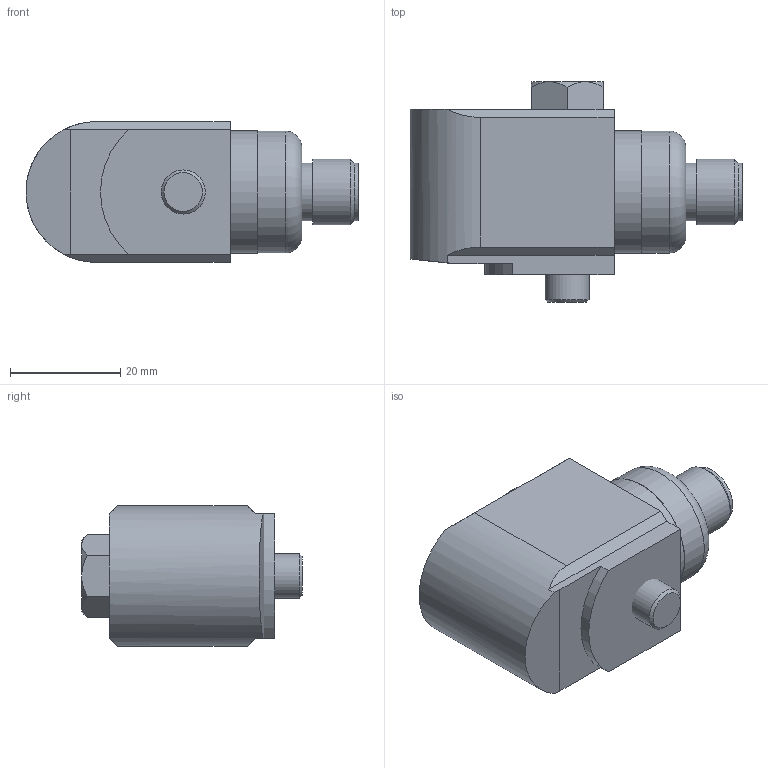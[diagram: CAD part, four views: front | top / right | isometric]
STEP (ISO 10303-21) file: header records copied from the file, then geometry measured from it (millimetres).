
FILE_DESCRIPTION(/* description */ (''),/* implementation_level */ '2;1');
FILE_NAME(/* name */ 'Z:\Engineering\Drawings\3D Library\Assemblies\Website\Premium Side\HS-150 Side M12\HS-150SXXX5408.stp',/* time_stamp */ '2023-03-12T13:11:55+00:00',/* author */ ('Ricardo.Peneda'),/* organization */ (''),/* preprocessor_version */ 'ST-DEVELOPER v18.1',/* originating_system */ 'Autodesk Inventor 2021',/* authorisation */ '');
FILE_SCHEMA (('AUTOMOTIVE_DESIGN { 1 0 10303 214 3 1 1 }'));
Length unit declared in the file: inch
Products named in the file (1): HS-150SXXX5408_Shrinkwrap_1
Bounding box: 60.19 x 40 x 25.5 mm (x, y, z)
Volume: 26250 mm3; surface area: 11210.6 mm2
Topology: 4 solids, 4 shells, 70 faces, 166 edges, 118 vertices
Faces by surface type: plane 39, cylinder 20, cone 10, torus 1
Full cylindrical faces by diameter (mm): 6.4 x1, 6.647 x1, 8 x1, 9.4 x2, 10 x1, 10.496 x1, 10.5 x1, 12 x1, 13 x1, 14.95 x1, 15.34 x1, 15.35 x1, 18 x1, 19.95 x1, 20 x1, 22.2 x2
Entity records: 2208 total; most frequent: DIRECTION 385, CARTESIAN_POINT 381, ORIENTED_EDGE 332, EDGE_CURVE 166, AXIS2_PLACEMENT_3D 160, VERTEX_POINT 118, EDGE_LOOP 86, CIRCLE 84
